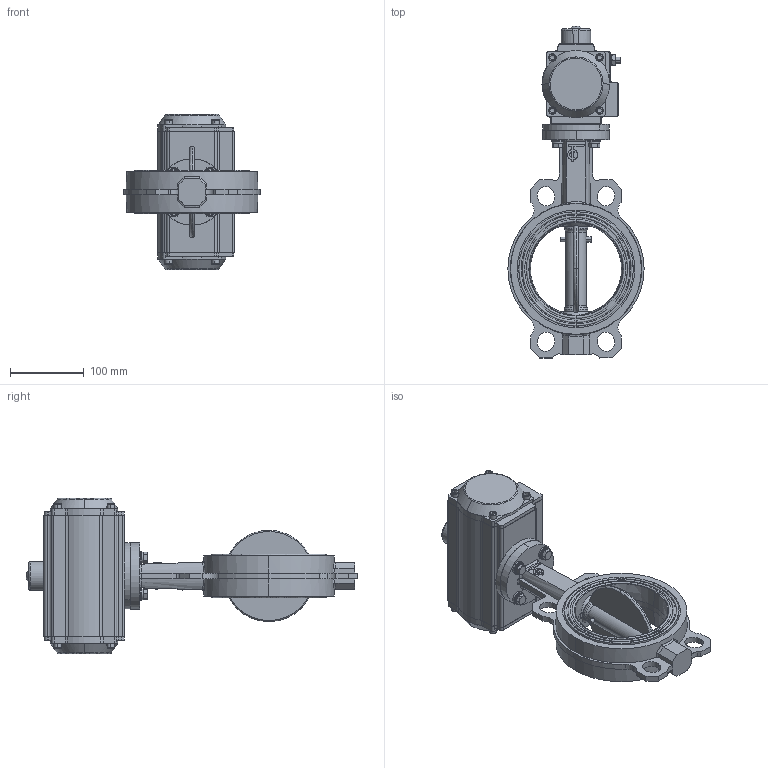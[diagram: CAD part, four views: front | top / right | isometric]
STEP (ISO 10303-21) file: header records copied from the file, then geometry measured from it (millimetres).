
FILE_DESCRIPTION (( 'STEP AP214' ), '1' );
FILE_NAME ('VPG444X-N03XX0125.step', '2022-06-27T15:41:36', ( '' ), ( '' ), 'SwSTEP 2.0', 'SolidWorks 2020', '' );
FILE_SCHEMA (( 'AUTOMOTIVE_DESIGN' ));
Length unit declared in the file: millimetre
Products named in the file (1): VPG444X-N03XX0125
Bounding box: 184.29 x 449.05 x 210 mm (x, y, z)
Surface area: 308972.7 mm2 (no closed solid volume)
Topology: 0 solids, 77 shells, 738 faces, 4306 edges, 3640 vertices
Faces by surface type: plane 355, cylinder 204, bspline 101, cone 74, torus 4
Entity records: 66616 total; most frequent: CARTESIAN_POINT 27773, ORIENTED_EDGE 5935, DIRECTION 5217, EDGE_CURVE 4302, VERTEX_POINT 3640, LINE 2251, VECTOR 2251, AXIS2_PLACEMENT_3D 1483
